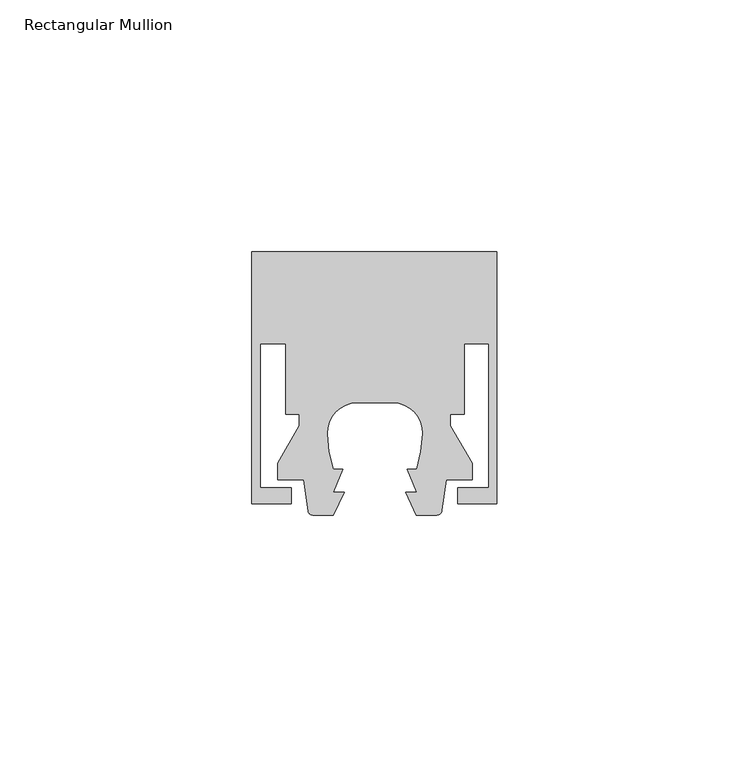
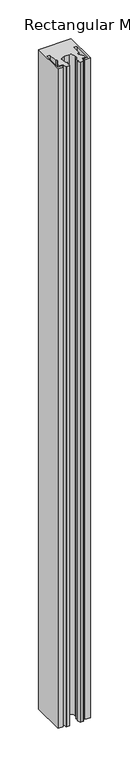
"""IFC4 building model written with IfcOpenShell, lengths in millimetres: member geometry, Rectangular Mullion : Danpal_Airpt."""

from ifc_helpers import new_model, si_unit, point, frame, frame_2d, origin, place, context, project, spatial, polyline, circle_curve, trimmed, segment, composite_curve, outline, extrude, source, transform, mapped, element, save


def rectangular_mullion_12c60160(model_context):
    return source(origin(), model_context, "Body", "SweptSolid", [
        extrude(outline(composite_curve([segment(polyline([(-16.6, 16.4), (-24.4, 16.4), (-24.4, 66.4), (24.2, 66.4), (24.2, 16.4), (16.4, 16.4), (16.4, 19.6), (22.6, 19.6), (22.6, 48.2), (17.7185077, 48.2), (17.7185077, 34.2), (14.9766663, 34.2), (14.9766663, 31.9202845), (19.2732051, 24.478461), (19.3, 21.2), (14.115585, 21.2)]), True, "CONTINUOUS"), segment(trimmed(circle_curve(frame_2d((-137.1078499, 38.5534788)), 152.215868), [point((14.115585, 21.2))], [point((13.2922905, 15.1127399))], False, "CARTESIAN"), True, "CONTINUOUS"), segment(trimmed(circle_curve(frame_2d((12.2262756, 15.2788845)), 1.0788845), [point((13.2922905, 15.1127399))], [point((12.2262756, 14.2))], False, "CARTESIAN"), True, "CONTINUOUS"), segment(polyline([(12.2262756, 14.2), (8.2308667, 14.2), (6.0782659, 18.7006239), (8.2858815, 18.7006239), (6.3614697, 23.2699289), (8.2778534, 23.2699289)]), True, "CONTINUOUS"), segment(trimmed(circle_curve(frame_2d((-16.4332098, 31.142799)), 25.9348941), [point((8.2778534, 23.2699289))], [point((9.488241, 30.3078647))], True, "CARTESIAN"), True, "CONTINUOUS"), segment(trimmed(circle_curve(frame_2d((3.5093751, 30.500445)), 5.9819667), [point((9.488241, 30.3078647))], [point((3.5093751, 36.4824117))], True, "CARTESIAN"), True, "CONTINUOUS"), segment(polyline([(3.5093751, 36.4824117), (-3.5093751, 36.4824117)]), True, "CONTINUOUS"), segment(trimmed(circle_curve(frame_2d((-3.5093751, 30.500445)), 5.9819667), [point((-3.5093751, 36.4824117))], [point((-9.488241, 30.3078647))], True, "CARTESIAN"), True, "CONTINUOUS"), segment(trimmed(circle_curve(frame_2d((16.4332098, 31.142799)), 25.9348941), [point((-9.488241, 30.3078647))], [point((-8.2778534, 23.2699289))], True, "CARTESIAN"), True, "CONTINUOUS"), segment(polyline([(-8.2778534, 23.2699289), (-6.3614697, 23.2699289), (-8.2858815, 18.7006239), (-6.0782659, 18.7006239), (-8.2308667, 14.2), (-12.3738214, 14.2)]), True, "CONTINUOUS"), segment(trimmed(circle_curve(frame_2d((-12.3738214, 15.1064765)), 0.9064765), [point((-12.3738214, 14.2))], [point((-13.2693482, 14.9660083))], False, "CARTESIAN"), True, "CONTINUOUS"), segment(trimmed(circle_curve(frame_2d((137.1078499, 38.5534788)), 152.215868), [point((-13.2693482, 14.9660083))], [point((-14.115585, 21.2))], False, "CARTESIAN"), True, "CONTINUOUS"), segment(polyline([(-14.115585, 21.2), (-19.3, 21.2), (-19.2732051, 24.478461), (-14.9766663, 31.9202845), (-14.9766663, 34.2), (-17.7185077, 34.2), (-17.7185077, 48.2), (-22.8, 48.2), (-22.8, 19.6), (-16.6, 19.6), (-16.6, 16.4)]), True, "CONTINUOUS")], self_intersect=False)), frame((0.0, 0.0, -1040.1955786), z_axis=(0.0, 0.0, 1.0), x_axis=(1.0, 0.0, 0.0)), (0.0, 0.0, 1.0), 1040.1955786),
    ])


if __name__ == "__main__":
    model = new_model("IFC4")
    model_context = context("Model", 3, world=origin())
    ifc_project = project(units=[si_unit("LENGTHUNIT", "METRE", prefix="MILLI")], contexts=[model_context])
    site = spatial("IfcSite", under=ifc_project)
    building = spatial("IfcBuilding", under=site)
    placement = place(None, origin())
    rectangular_mullion_shape = rectangular_mullion_12c60160(model_context)
    element("IfcMember", 1, ObjectType="Rectangular Mullion : Danpal_Airpt", at=placement, inside=building, context=model_context, shape_type="MappedRepresentation", body=[
        mapped(rectangular_mullion_shape, transform((0.0, 0.0, 0.0), x_axis=(1.0, 0.0, 0.0), y_axis=(0.0, 1.0, 0.0), z_axis=(0.0, 0.0, 1.0))),
    ])
    save(model, "model.ifc")
